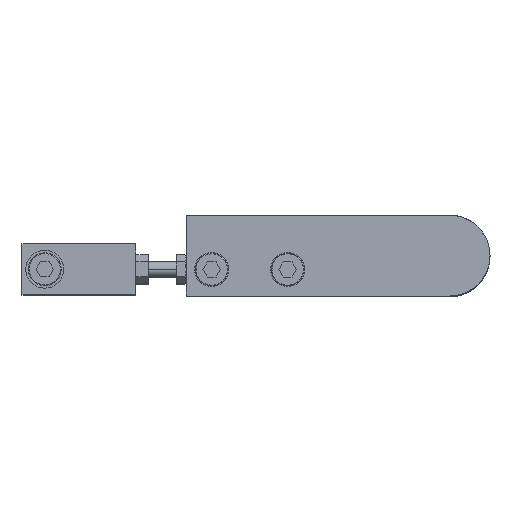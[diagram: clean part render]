
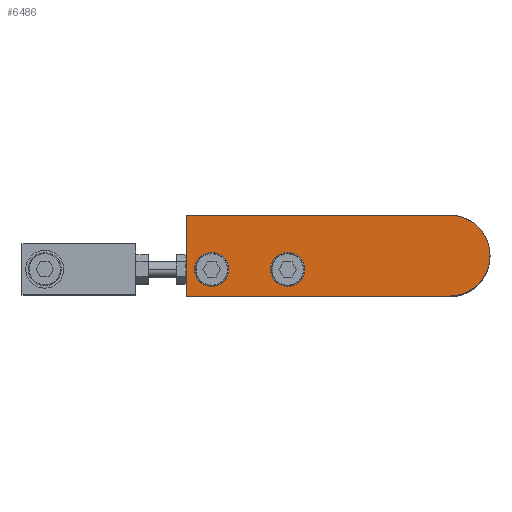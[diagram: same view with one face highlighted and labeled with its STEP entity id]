
A CAD part, top view. The second image highlights one B-rep face of the part: STEP entity #6486.
In plain terms, the highlighted planar face has unit normal (0, 0, 1) as drawn and (0, 0, -1) by its records, which use the part's own axes.
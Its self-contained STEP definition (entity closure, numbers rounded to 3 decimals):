
#39 = EDGE_CURVE ( 'NONE', #437, #9553, #521, .T. ) ;
#437 = VERTEX_POINT ( 'NONE', #7190 ) ;
#521 = CIRCLE ( 'NONE', #6196, 6.75 ) ;
#707 = DIRECTION ( 'NONE',  ( -1., 0., 0. ) ) ;
#778 = CARTESIAN_POINT ( 'NONE',  ( 94., -5.5, -5. ) ) ;
#915 = CARTESIAN_POINT ( 'NONE',  ( 87.25, -5.5, -5. ) ) ;
#1010 = EDGE_CURVE ( 'NONE', #4087, #5935, #4621, .T. ) ;
#1330 = CIRCLE ( 'NONE', #1638, 6.75 ) ;
#1368 = ORIENTED_EDGE ( 'NONE', *, *, #1010, .F. ) ;
#1389 = PLANE ( 'NONE',  #4968 ) ;
#1417 = FACE_BOUND ( 'NONE', #4086, .T. ) ;
#1638 = AXIS2_PLACEMENT_3D ( 'NONE', #778, #9823, #707 ) ;
#1706 = LINE ( 'NONE', #7852, #10117 ) ;
#1769 = CARTESIAN_POINT ( 'NONE',  ( 0., -16., -5. ) ) ;
#2059 = EDGE_CURVE ( 'NONE', #3850, #4866, #5061, .T. ) ;
#2149 = ORIENTED_EDGE ( 'NONE', *, *, #9056, .F. ) ;
#2340 = DIRECTION ( 'NONE',  ( -1., 0., 0. ) ) ;
#2420 = ORIENTED_EDGE ( 'NONE', *, *, #8484, .F. ) ;
#2426 = EDGE_LOOP ( 'NONE', ( #2420, #1368, #2897, #4754, #5293 ) ) ;
#2571 = FACE_BOUND ( 'NONE', #7492, .T. ) ;
#2798 = CARTESIAN_POINT ( 'NONE',  ( -16., 0., -5. ) ) ;
#2897 = ORIENTED_EDGE ( 'NONE', *, *, #5237, .F. ) ;
#3017 = ORIENTED_EDGE ( 'NONE', *, *, #5450, .F. ) ;
#3041 = CARTESIAN_POINT ( 'NONE',  ( 64., -5.5, -5. ) ) ;
#3228 = VERTEX_POINT ( 'NONE', #4373 ) ;
#3287 = CARTESIAN_POINT ( 'NONE',  ( 100.75, -5.5, -5. ) ) ;
#3514 = DIRECTION ( 'NONE',  ( 0., 0., 1. ) ) ;
#3648 = DIRECTION ( 'NONE',  ( 0., 0., 1. ) ) ;
#3850 = VERTEX_POINT ( 'NONE', #2798 ) ;
#4086 = EDGE_LOOP ( 'NONE', ( #7723, #9168 ) ) ;
#4087 = VERTEX_POINT ( 'NONE', #10536 ) ;
#4238 = VERTEX_POINT ( 'NONE', #915 ) ;
#4256 = EDGE_CURVE ( 'NONE', #4866, #3228, #4702, .T. ) ;
#4327 = CARTESIAN_POINT ( 'NONE',  ( 94., -5.5, -5. ) ) ;
#4373 = CARTESIAN_POINT ( 'NONE',  ( 104., -16., -5. ) ) ;
#4520 = DIRECTION ( 'NONE',  ( -1., 0., 0. ) ) ;
#4585 = CARTESIAN_POINT ( 'NONE',  ( 0., 0., -5. ) ) ;
#4621 = LINE ( 'NONE', #9466, #5002 ) ;
#4702 = LINE ( 'NONE', #8192, #9877 ) ;
#4754 = ORIENTED_EDGE ( 'NONE', *, *, #4256, .F. ) ;
#4781 = FACE_OUTER_BOUND ( 'NONE', #2426, .T. ) ;
#4866 = VERTEX_POINT ( 'NONE', #1769 ) ;
#4968 = AXIS2_PLACEMENT_3D ( 'NONE', #7133, #5602, #8859 ) ;
#5002 = VECTOR ( 'NONE', #4520, 1000. ) ;
#5061 = CIRCLE ( 'NONE', #10158, 16. ) ;
#5237 = EDGE_CURVE ( 'NONE', #3228, #4087, #1706, .T. ) ;
#5293 = ORIENTED_EDGE ( 'NONE', *, *, #2059, .F. ) ;
#5382 = CIRCLE ( 'NONE', #8137, 16. ) ;
#5417 = CIRCLE ( 'NONE', #9317, 6.75 ) ;
#5418 = DIRECTION ( 'NONE',  ( 0., 1., 0. ) ) ;
#5450 = EDGE_CURVE ( 'NONE', #4238, #7221, #1330, .T. ) ;
#5602 = DIRECTION ( 'NONE',  ( 0., 0., 1. ) ) ;
#5716 = DIRECTION ( 'NONE',  ( -1., 0., 0. ) ) ;
#5935 = VERTEX_POINT ( 'NONE', #9928 ) ;
#6196 = AXIS2_PLACEMENT_3D ( 'NONE', #9912, #8303, #5716 ) ;
#6486 = ADVANCED_FACE ( 'NONE', ( #2571, #1417, #4781 ), #1389, .F. ) ;
#6493 = EDGE_CURVE ( 'NONE', #9553, #437, #5417, .T. ) ;
#6687 = AXIS2_PLACEMENT_3D ( 'NONE', #4327, #8620, #7730 ) ;
#6716 = CARTESIAN_POINT ( 'NONE',  ( 57.25, -5.5, -5. ) ) ;
#7133 = CARTESIAN_POINT ( 'NONE',  ( 0., 0., -5. ) ) ;
#7167 = CIRCLE ( 'NONE', #6687, 6.75 ) ;
#7190 = CARTESIAN_POINT ( 'NONE',  ( 70.75, -5.5, -5. ) ) ;
#7221 = VERTEX_POINT ( 'NONE', #3287 ) ;
#7492 = EDGE_LOOP ( 'NONE', ( #3017, #2149 ) ) ;
#7723 = ORIENTED_EDGE ( 'NONE', *, *, #6493, .F. ) ;
#7730 = DIRECTION ( 'NONE',  ( -1., 0., 0. ) ) ;
#7754 = DIRECTION ( 'NONE',  ( 1., 0., 0. ) ) ;
#7852 = CARTESIAN_POINT ( 'NONE',  ( 104., 16., -5. ) ) ;
#8137 = AXIS2_PLACEMENT_3D ( 'NONE', #8572, #3514, #7754 ) ;
#8192 = CARTESIAN_POINT ( 'NONE',  ( 104., -16., -5. ) ) ;
#8303 = DIRECTION ( 'NONE',  ( 0., 0., -1. ) ) ;
#8484 = EDGE_CURVE ( 'NONE', #5935, #3850, #5382, .T. ) ;
#8572 = CARTESIAN_POINT ( 'NONE',  ( 0., 0., -5. ) ) ;
#8620 = DIRECTION ( 'NONE',  ( 0., 0., -1. ) ) ;
#8825 = DIRECTION ( 'NONE',  ( 0., 0., -1. ) ) ;
#8859 = DIRECTION ( 'NONE',  ( 1., 0., 0. ) ) ;
#9056 = EDGE_CURVE ( 'NONE', #7221, #4238, #7167, .T. ) ;
#9168 = ORIENTED_EDGE ( 'NONE', *, *, #39, .F. ) ;
#9317 = AXIS2_PLACEMENT_3D ( 'NONE', #3041, #8825, #2340 ) ;
#9429 = DIRECTION ( 'NONE',  ( 1., 0., 0. ) ) ;
#9466 = CARTESIAN_POINT ( 'NONE',  ( 0., 16., -5. ) ) ;
#9553 = VERTEX_POINT ( 'NONE', #6716 ) ;
#9823 = DIRECTION ( 'NONE',  ( 0., 0., -1. ) ) ;
#9877 = VECTOR ( 'NONE', #9926, 1000. ) ;
#9912 = CARTESIAN_POINT ( 'NONE',  ( 64., -5.5, -5. ) ) ;
#9926 = DIRECTION ( 'NONE',  ( 1., 0., 0. ) ) ;
#9928 = CARTESIAN_POINT ( 'NONE',  ( 0., 16., -5. ) ) ;
#10117 = VECTOR ( 'NONE', #5418, 1000. ) ;
#10158 = AXIS2_PLACEMENT_3D ( 'NONE', #4585, #3648, #9429 ) ;
#10536 = CARTESIAN_POINT ( 'NONE',  ( 104., 16., -5. ) ) ;
